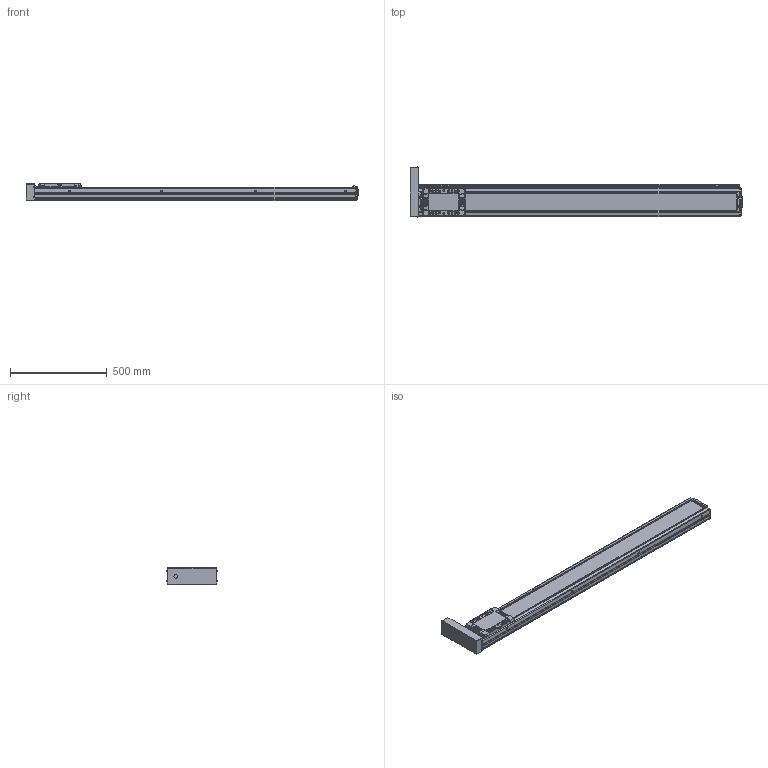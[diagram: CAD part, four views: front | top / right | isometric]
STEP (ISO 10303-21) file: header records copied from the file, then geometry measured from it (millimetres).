
FILE_DESCRIPTION(('STEP AP214'),'1');
FILE_NAME('Z:/Web/3D/SAN150/2013.04 (STP.)/SAN150ㅁㅁ-1400PL+3SL.stp','2013-05-07T08:35:47',(' '),(' '),'Spatial InterOp 3D',' ',' ');
FILE_SCHEMA(('automotive_design'));
Length unit declared in the file: millimetre
Products named in the file (62): SLBL-SAN150; SLCV-SAN150; FHCS M4.0 x 8.0; BHCS M4.0 x 10.0; SFX-SAN150; RRCV-SAN150; FRBL-SAN150; Spacer; RN15; FRCV-SAN150; Screw 20; BASE-SAN150-000L ; SUS COVER; 스크루 : Round - M5.0 x 6.0; BHCS M3.0 x 6.0; P; M3.0 x 6.0; SRL-16x17-360L; SGD-SAN150; EE-SX674; SBK-SX674-352; 스크루 : Round - M3.0 x 6.0
Bounding box: 1720 x 260.73 x 90 mm (x, y, z)
Volume: 9749783 mm3; surface area: 1861530.2 mm2
Topology: 62 solids, 62 shells, 2908 faces, 7472 edges, 4777 vertices
Faces by surface type: plane 1454, cylinder 979, cone 354, sphere 88, bspline 21, torus 12
Entity records: 115586 total; most frequent: CARTESIAN_POINT 18897, DIRECTION 15852, ORIENTED_EDGE 14640, EDGE_CURVE 7320, AXIS2_PLACEMENT_3D 5711, VERTEX_POINT 4777, LINE 4430, VECTOR 4430
